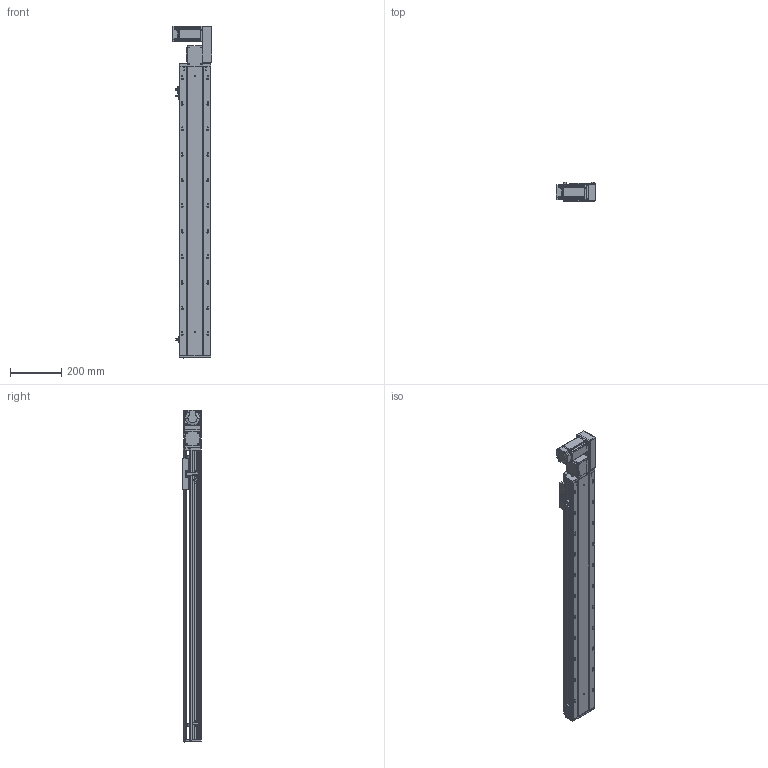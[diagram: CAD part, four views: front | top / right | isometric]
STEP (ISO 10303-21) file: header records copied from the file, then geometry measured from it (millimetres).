
FILE_DESCRIPTION (( 'STEP AP203' ), '1' );
FILE_NAME ('RY120-T-300-RK.SLDASM_900.step', '2021-03-01T03:53:27', ( '盈信电脑' ), ( '东莞市道滘镇水果街19号' ), 'SwSTEP 2.0', 'SolidWorks 2012', '' );
FILE_SCHEMA (( 'CONFIG_CONTROL_DESIGN' ));
Length unit declared in the file: millimetre
Products named in the file (17): RY120-T萇儂假蚾啣; RY120-T翋肮祭謫裔啣; 15; RY120-T翋肮祭盓傅釱; RY120-T肮祭湍揤踡輸1; RY120-T肮祭湍揤踡輸2; 滅袉蝶18-10; RY120外置感应片(140共用）; 覜茼ん672; RY120綴裔啣; RY120-T-300-RK倰第奻裔啣_900; RY120-T-300-RK倰第菁釱_900; RY120肮祭湍臏賑輸; RY120-T蹟翐M4; RY120-T主同步轮轴承压盖; RY120-T-300-RK.SLDASM_900; RY120-T萇儂欶
Assembly tree (22 placements, depth 2):
  RY120-T-300-RK.SLDASM_900
    RY120-T-300-RK倰第菁釱_900
    RY120-T-300-RK倰第奻裔啣_900
    RY120肮祭湍臏賑輸
    RY120綴裔啣
    覜茼ん672  x3
    RY120外置感应片(140共用）
    RY120-T肮祭湍揤踡輸1
    RY120-T肮祭湍揤踡輸2
    RY120-T翋肮祭盓傅釱
    滅袉蝶18-10  x2
    RY120-T翋肮祭謫裔啣
    15
    RY120-T萇儂假蚾啣
    RY120-T蹟翐M4  x4
    RY120-T萇儂欶
    RY120-T主同步轮轴承压盖
Bounding box: 155.5 x 73 x 1297.5 mm (x, y, z)
Volume: 3391002.2 mm3; surface area: 1265667.4 mm2
Topology: 23 solids, 23 shells, 2972 faces, 8168 edges, 5252 vertices
Faces by surface type: plane 1452, cylinder 1178, cone 253, bspline 89
Entity records: 96521 total; most frequent: CARTESIAN_POINT 25618, ORIENTED_EDGE 14768, DIRECTION 13750, EDGE_CURVE 7384, VERTEX_POINT 4839, AXIS2_PLACEMENT_3D 4631, VECTOR 4488, LINE 4488
